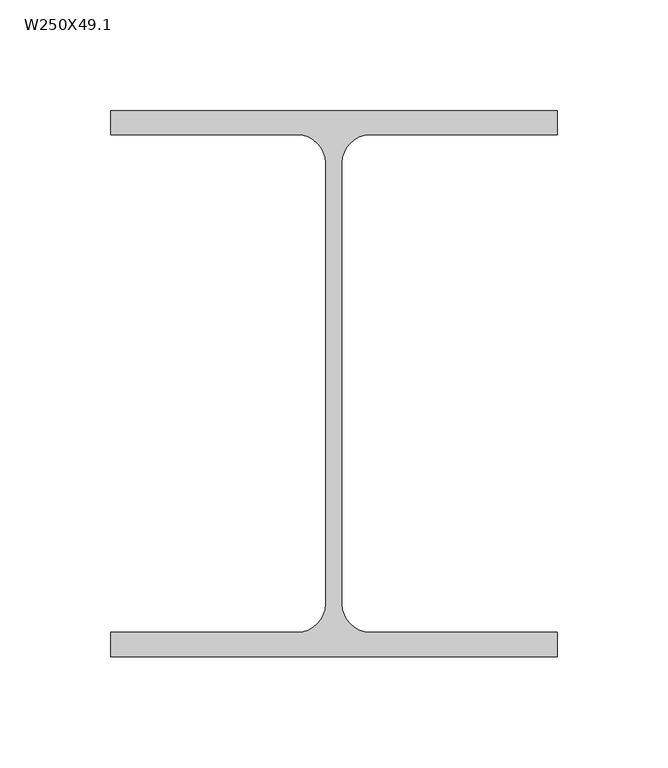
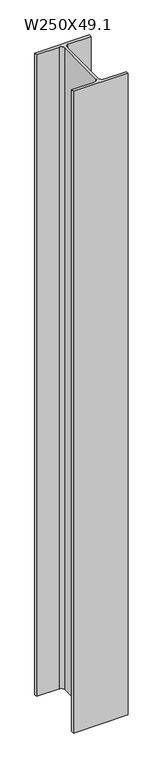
"""IFC4 building model written with IfcOpenShell, lengths in millimetres: column geometry, M_W Формы-Колонна : W250X49.1."""

from ifc_helpers import new_model, si_unit, point, frame_2d, origin, origin_with_axes, place, context, project, spatial, polyline, circle_curve, trimmed, segment, composite_curve, outline, extrude, source, transform, mapped, element, save


def w250x49_1_2da3a2e4(model_context):
    return source(origin(), model_context, "Body", "SweptSolid", [
        extrude(outline(composite_curve([segment(polyline([(101.0, 123.5), (101.0, 112.5), (16.385, 112.5)]), True, "CONTINUOUS"), segment(trimmed(circle_curve(frame_2d((16.385, 99.8)), 12.7), [point((16.385, 112.5))], [point((3.685, 99.8))], True, "CARTESIAN"), True, "CONTINUOUS"), segment(polyline([(3.685, 99.8), (3.685, -99.8)]), True, "CONTINUOUS"), segment(trimmed(circle_curve(frame_2d((16.385, -99.8)), 12.7), [point((3.685, -99.8))], [point((16.385, -112.5))], True, "CARTESIAN"), True, "CONTINUOUS"), segment(polyline([(16.385, -112.5), (101.0, -112.5), (101.0, -123.5), (-101.0, -123.5), (-101.0, -112.5), (-16.385, -112.5)]), True, "CONTINUOUS"), segment(trimmed(circle_curve(frame_2d((-16.385, -99.8)), 12.7), [point((-16.385, -112.5))], [point((-3.685, -99.8))], True, "CARTESIAN"), True, "CONTINUOUS"), segment(polyline([(-3.685, -99.8), (-3.685, 99.8)]), True, "CONTINUOUS"), segment(trimmed(circle_curve(frame_2d((-16.385, 99.8)), 12.7), [point((-3.685, 99.8))], [point((-16.385, 112.5))], True, "CARTESIAN"), True, "CONTINUOUS"), segment(polyline([(-16.385, 112.5), (-101.0, 112.5), (-101.0, 123.5), (101.0, 123.5)]), True, "CONTINUOUS")], self_intersect=False)), origin_with_axes(), (0.0, 0.0, 1.0), 2500.0),
    ])


if __name__ == "__main__":
    model = new_model("IFC4")
    model_context = context("Model", 3, world=origin())
    ifc_project = project(units=[si_unit("LENGTHUNIT", "METRE", prefix="MILLI")], contexts=[model_context])
    site = spatial("IfcSite", under=ifc_project)
    building = spatial("IfcBuilding", under=site)
    placement = place(None, origin())
    w250x49_1_shape = w250x49_1_2da3a2e4(model_context)
    element("IfcColumn", 1, ObjectType="M_W Формы-Колонна : W250X49.1", at=placement, inside=building, context=model_context, shape_type="MappedRepresentation", body=[
        mapped(w250x49_1_shape, transform((0.0, 0.0, 0.0), x_axis=(1.0, 0.0, 0.0), y_axis=(0.0, 1.0, 0.0), z_axis=(0.0, 0.0, 1.0))),
    ])
    save(model, "model.ifc")
